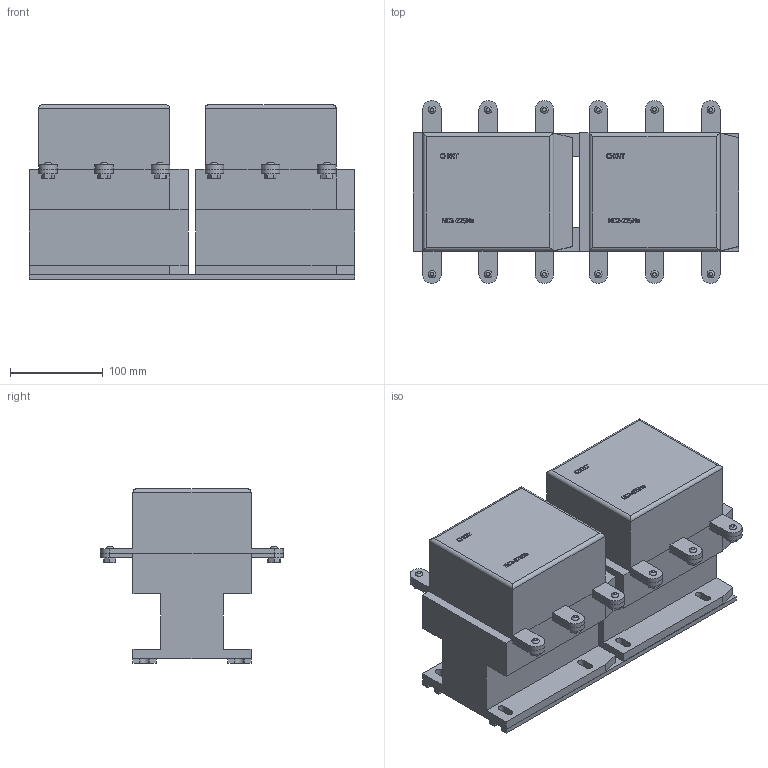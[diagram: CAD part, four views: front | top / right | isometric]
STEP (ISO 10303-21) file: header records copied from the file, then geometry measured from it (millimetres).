
FILE_DESCRIPTION(/* description */ (''),/* implementation_level */ '2;1');
FILE_NAME(/* name */ 'D:\CHINT2\NC2-N\NC2-225Ns 230В 50Гц (горизонтальная установка).stp',/* time_stamp */ '2017-11-12T21:06:56+03:00',/* author */ ('RSagdiev'),/* organization */ (''),/* preprocessor_version */ 'ST-DEVELOPER v16.5',/* originating_system */ 'Autodesk Inventor 2017',/* authorisation */ '');
FILE_SCHEMA (('AUTOMOTIVE_DESIGN { 1 0 10303 214 3 1 1 }'));
Length unit declared in the file: millimetre
Products named in the file (1): NC2-225Ns 230В 50Гц (\X2\0433043E044004380437
043E043D04420430043B044C043D0430044F\X0\ \X2\0443044104420430043D043E0432
043A0430\X0\)
Bounding box: 350 x 197 x 188.1 mm (x, y, z)
Volume: 6331089.7 mm3; surface area: 480183.1 mm2
Topology: 30 solids, 30 shells, 760 faces, 2028 edges, 1356 vertices
Faces by surface type: plane 506, bspline 202, cylinder 52
Entity records: 25362 total; most frequent: CARTESIAN_POINT 7519, ORIENTED_EDGE 4056, DIRECTION 2898, EDGE_CURVE 2028, LINE 1492, VECTOR 1492, VERTEX_POINT 1356, EDGE_LOOP 804
